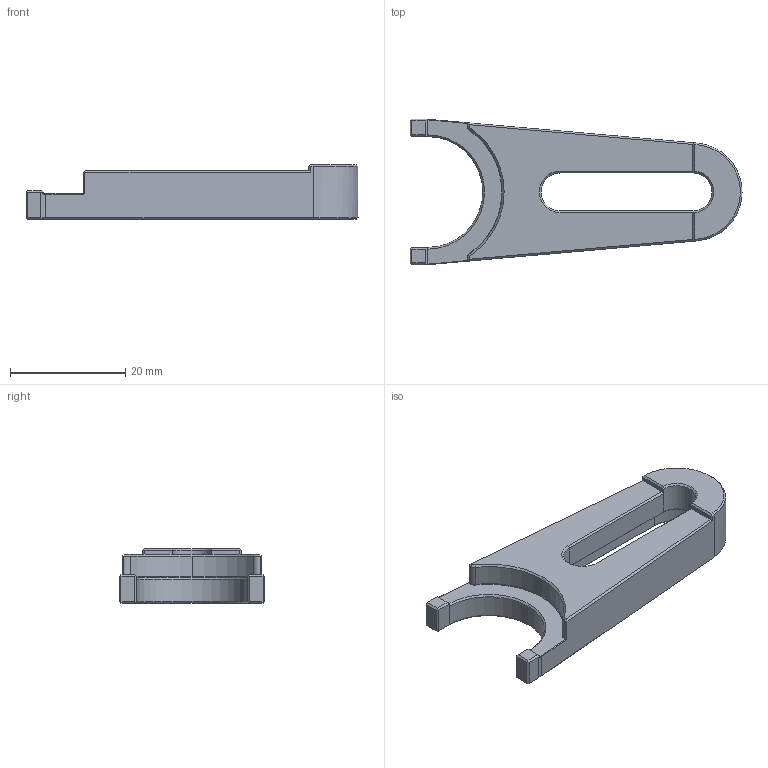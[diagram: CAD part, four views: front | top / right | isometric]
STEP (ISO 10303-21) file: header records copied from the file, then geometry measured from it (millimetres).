
FILE_DESCRIPTION (( 'STEP AP214' ), '1' );
FILE_NAME ('揤啣19-26.STEP', '2026-05-23T08:46:09', ( '' ), ( '' ), 'SwSTEP 2.0', 'SolidWorks 2024', '' );
FILE_SCHEMA (( 'AUTOMOTIVE_DESIGN' ));
Length unit declared in the file: millimetre
Products named in the file (1): 压板19-26
Bounding box: 57.5 x 25.2 x 9.5 mm (x, y, z)
Volume: 5447.4 mm3; surface area: 3400.1 mm2
Topology: 1 solids, 1 shells, 117 faces, 304 edges, 189 vertices
Faces by surface type: plane 57, cylinder 26, cone 21, torus 9, bspline 4
Entity records: 3773 total; most frequent: CARTESIAN_POINT 946, ORIENTED_EDGE 608, DIRECTION 567, EDGE_CURVE 304, AXIS2_PLACEMENT_3D 191, VERTEX_POINT 189, LINE 185, VECTOR 185
